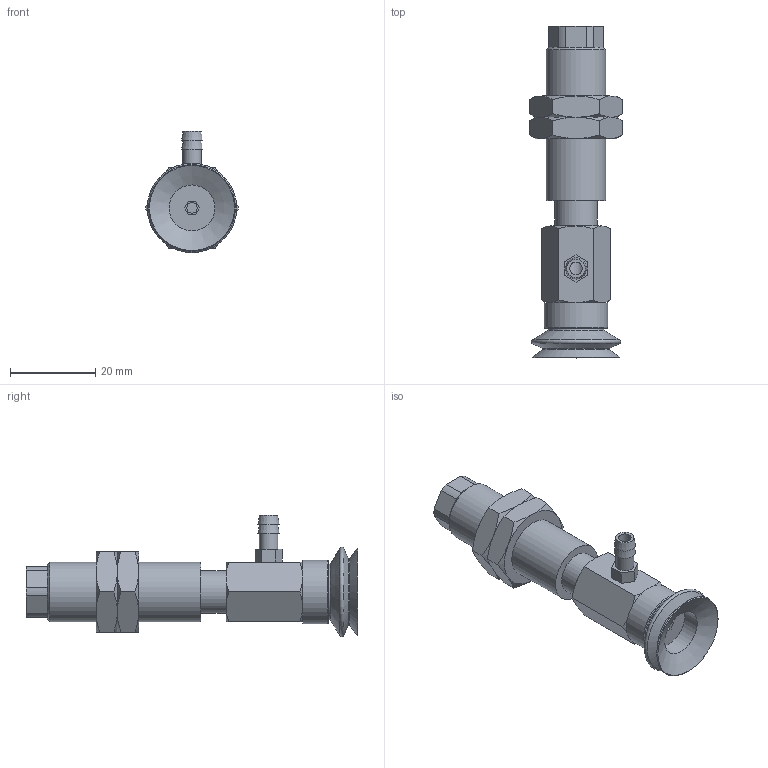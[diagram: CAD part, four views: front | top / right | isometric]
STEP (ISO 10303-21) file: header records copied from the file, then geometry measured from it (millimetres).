
FILE_DESCRIPTION(('STEP AP203'),'1');
FILE_NAME('-T.stp','2025-04-24T01:22:48',(' '),(' '),'Spatial InterOp 3D',' ',' ');
FILE_SCHEMA(('CONFIG_CONTROL_DESIGN'));
Length unit declared in the file: millimetre
Products named in the file (8): BNABPJYS-20-6-※-T; Adapter-20-NAPJ; CONNECTOR_S-20-6; NUT-NAPJ-20-6-s; NAPJTS-20-6-FBODY; NAPJTS-20-6-MBODY; BPJG-20-※; T
Assembly tree (8 placements, depth 2):
  BNABPJYS-20-6-※-T
    Adapter-20-NAPJ
    CONNECTOR_S-20-6
    NUT-NAPJ-20-6-s  x2
    NAPJTS-20-6-FBODY
    NAPJTS-20-6-MBODY
    BPJG-20-※
    T
Bounding box: 21.94 x 78 x 28.5 mm (x, y, z)
Volume: 12970 mm3; surface area: 10785.3 mm2
Topology: 8 solids, 8 shells, 161 faces, 345 edges, 212 vertices
Faces by surface type: plane 72, cone 57, cylinder 25, torus 7
Full cylindrical faces by diameter (mm): 2.5 x1, 3 x2, 4.134 x3, 4.3 x1, 4.6 x1, 5 x3, 10 x2, 10.8 x1, 11 x1, 13.188 x2, 14 x1, 15 x1
Entity records: 4128 total; most frequent: CARTESIAN_POINT 937, DIRECTION 592, ORIENTED_EDGE 494, AXIS2_PLACEMENT_3D 250, EDGE_CURVE 247, EDGE_LOOP 206, VERTEX_POINT 177, FACE_OUTER_BOUND 163
